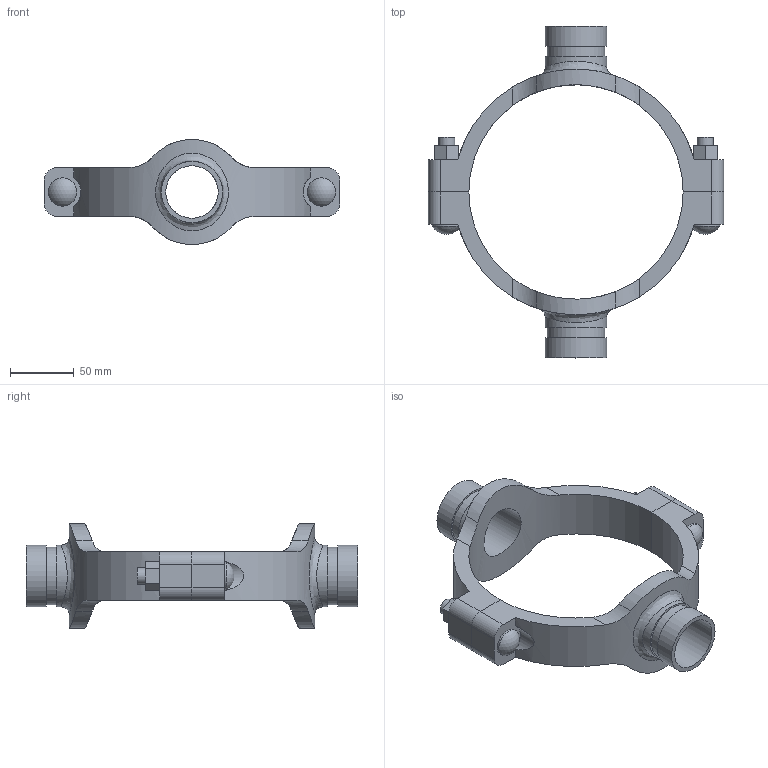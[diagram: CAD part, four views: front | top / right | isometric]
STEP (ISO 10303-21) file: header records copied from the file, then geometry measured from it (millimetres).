
FILE_DESCRIPTION(/* description */ ('VIC MECH-T BRANCH OUTLET CROSS STYLE 920N (GRVD)','CAx-IF Rec.Pracs.---Representation and Presentation of Product Manufacturing Information (PMI)---4.0---2014-10-13'),/* implementation_level */ '2;1');
FILE_NAME(/* name */ 'C:\Users\Vjadhav\AppData\Roaming\Autodesk\ApplicationPlugins\Back Up\Victaulic_IPS_Mechanical-Cross Outlet_Style 920N (OGS)\Victaulic_IPS_Mechanical-Cross Outlet_06.0x01.5x01.5 (150x40x40).stp',/* time_stamp */ '2020-08-06T19:44:43+05:00',/* author */ ('Vjadhav'),/* organization */ ('Victaulic'),/* preprocessor_version */ 'ST-DEVELOPER v17.2',/* originating_system */ 'Autodesk Inventor 2019',/* authorisation */ '');
FILE_SCHEMA (('AP242_MANAGED_MODEL_BASED_3D_ENGINEERING_MIM_LF { 1 0 10303 442 1 1 4 }'));
Length unit declared in the file: inch
Products named in the file (3): 920NG-06.0x01.5x01.5; 920NG-06.0x01.5; 920NG-06.0x01.5_1
Assembly tree (2 placements, depth 2):
  920NG-06.0x01.5x01.5
    920NG-06.0x01.5
    920NG-06.0x01.5_1
Bounding box: 231.9 x 260.6 x 82.42 mm (x, y, z)
Volume: 397301.6 mm3; surface area: 109362.5 mm2
Topology: 2 solids, 2 shells, 108 faces, 274 edges, 186 vertices
Faces by surface type: plane 54, cylinder 50, sphere 2, bspline 2
Full cylindrical faces by diameter (mm): 12.7 x4, 22.225 x2, 41.275 x2, 45.085 x2, 48.26 x4
Entity records: 4342 total; most frequent: CARTESIAN_POINT 1461, DIRECTION 552, ORIENTED_EDGE 548, EDGE_CURVE 274, AXIS2_PLACEMENT_3D 201, VERTEX_POINT 186, LINE 150, VECTOR 150
